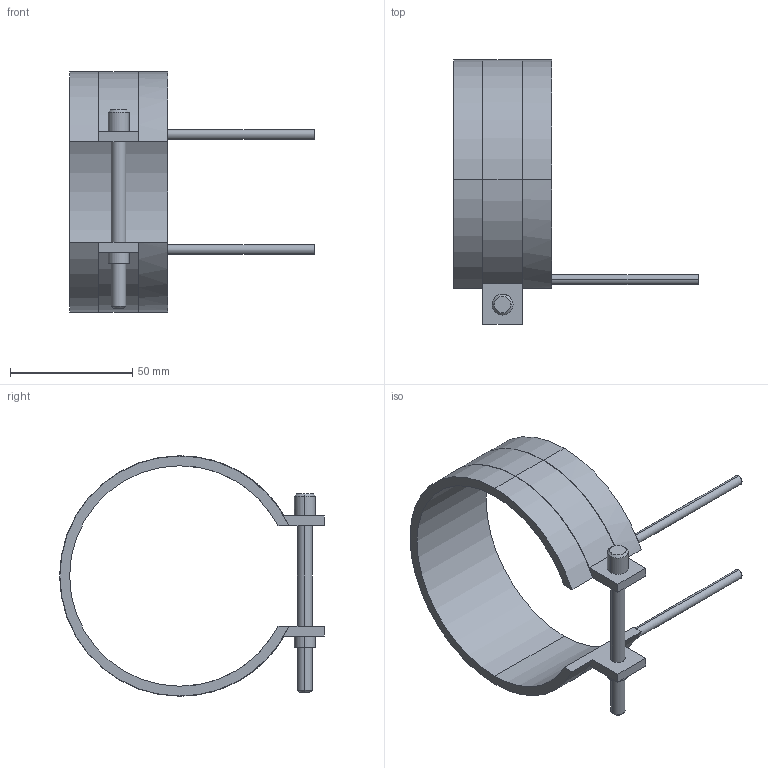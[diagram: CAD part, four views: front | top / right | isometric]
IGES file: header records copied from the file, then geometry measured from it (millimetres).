
Start section: START RECORD GO HERE.
Global section: file name: 14090040.igs; native system: DASSAULT SYSTEMES CATIA V5 R20 - www.3ds.com; preprocessor: CATIA Version 5 Release 20 ; author: Utente; organization: NB04-ASUS; date: 20210406.181051; units: millimetre
Bounding box: 100 x 108.1 x 98.2 mm (x, y, z)
Surface area: 26802.4 mm2 (no closed solid volume)
Topology: 0 solids, 0 shells, 45 faces, 232 edges, 232 vertices
Faces by surface type: revolution 28, plane 17
